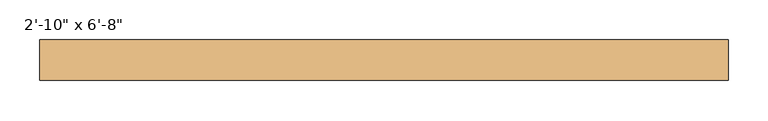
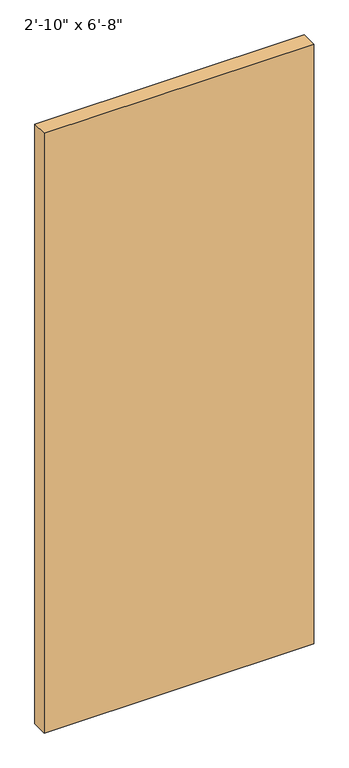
"""IFC4 building model written with IfcOpenShell, lengths in millimetres: door geometry."""

from ifc_helpers import new_model, si_unit, origin, origin_with_axes, place, context, project, spatial, polyline, outline, extrude, source, transform, mapped, element, save


def door_9f4ae598(model_context):
    return source(origin(), model_context, "Body", "SweptSolid", [
        extrude(outline(polyline([(431.8, 6.15), (-431.8, 6.15), (-431.8, 57.15), (431.8, 57.15), (431.8, 6.15)])), origin_with_axes(), (0.0, 0.0, 1.0), 2032.0),
    ])


if __name__ == "__main__":
    model = new_model("IFC4")
    model_context = context("Model", 3, world=origin())
    ifc_project = project(units=[si_unit("LENGTHUNIT", "METRE", prefix="MILLI")], contexts=[model_context])
    site = spatial("IfcSite", under=ifc_project)
    building = spatial("IfcBuilding", under=site)
    placement = place(None, origin())
    door_shape = door_9f4ae598(model_context)
    element("IfcDoor", 1, ObjectType="Planitar - Single Door_Flush Panel : 2'-10\" x 6'-8\"", at=placement, inside=building, context=model_context, shape_type="MappedRepresentation", body=[
        mapped(door_shape, transform((0.0, 0.0, 0.0), x_axis=(1.0, 0.0, 0.0), y_axis=(0.0, 1.0, 0.0), z_axis=(0.0, 0.0, 1.0))),
    ])
    save(model, "model.ifc")
